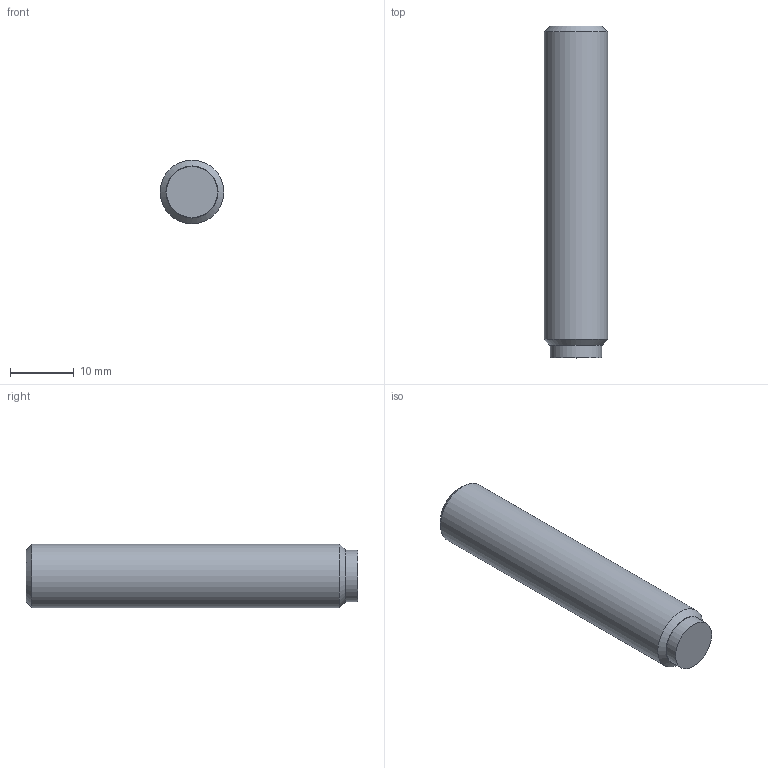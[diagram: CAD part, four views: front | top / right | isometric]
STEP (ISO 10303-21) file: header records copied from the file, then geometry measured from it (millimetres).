
FILE_DESCRIPTION( ( 'STEP AP203' ), '1' );
FILE_NAME( 'C:/Temp/Ganter_Step_05_03_2020/data/3_2/gn913_3/Grub screw GN 913.3-M10-50-MS.stp', '2020-03-13T05:35:52', ( 'License CC BY-ND 4.0' ), ( 'CADENAS' ), ' ', 'PARTsolutions', ' ' );
FILE_SCHEMA( ( 'CONFIG_CONTROL_DESIGN' ) );
Length unit declared in the file: millimetre
Products named in the file (1): _Grub screw GN 913.3-M10-50-MS
Bounding box: 10 x 52 x 10 mm (x, y, z)
Volume: 3872.7 mm3; surface area: 1846 mm2
Topology: 1 solids, 1 shells, 14 faces, 28 edges, 18 vertices
Faces by surface type: plane 10, cylinder 2, cone 2
Full cylindrical faces by diameter (mm): 8 x1, 10 x1
Entity records: 386 total; most frequent: DIRECTION 60, CARTESIAN_POINT 57, ORIENTED_EDGE 48, EDGE_CURVE 24, AXIS2_PLACEMENT_3D 21, EDGE_LOOP 20, VERTEX_POINT 18, LINE 18
